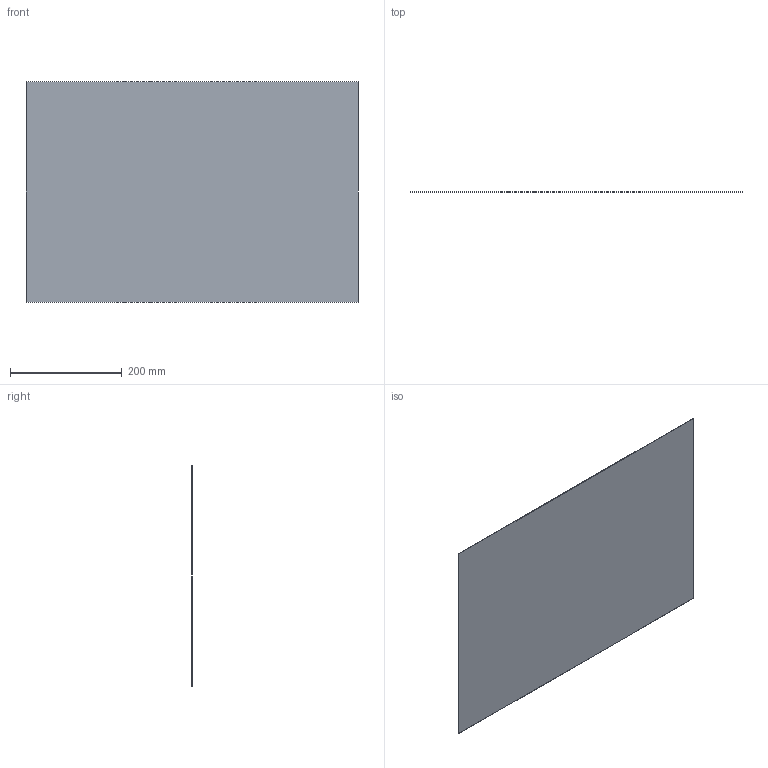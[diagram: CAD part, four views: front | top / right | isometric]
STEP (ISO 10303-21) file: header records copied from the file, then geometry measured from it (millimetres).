
FILE_DESCRIPTION (( 'STEP AP203' ), '1' );
FILE_NAME ('VT00286.STEP', '2016-10-24T12:37:09', ( '' ), ( '' ), 'SwSTEP 2.0', 'SolidWorks 2016', '' );
FILE_SCHEMA (( 'CONFIG_CONTROL_DESIGN' ));
Length unit declared in the file: millimetre
Products named in the file (1): VT00286
Bounding box: 593.5 x 1 x 393.5 mm (x, y, z)
Volume: 233542.2 mm3; surface area: 469058.5 mm2
Topology: 1 solids, 1 shells, 6 faces, 12 edges, 8 vertices
Faces by surface type: plane 6
Entity records: 233 total; most frequent: CARTESIAN_POINT 27, DIRECTION 26, ORIENTED_EDGE 24, LINE 12, VECTOR 12, EDGE_CURVE 12, PERSON_AND_ORGANIZATION 8, VERTEX_POINT 8
